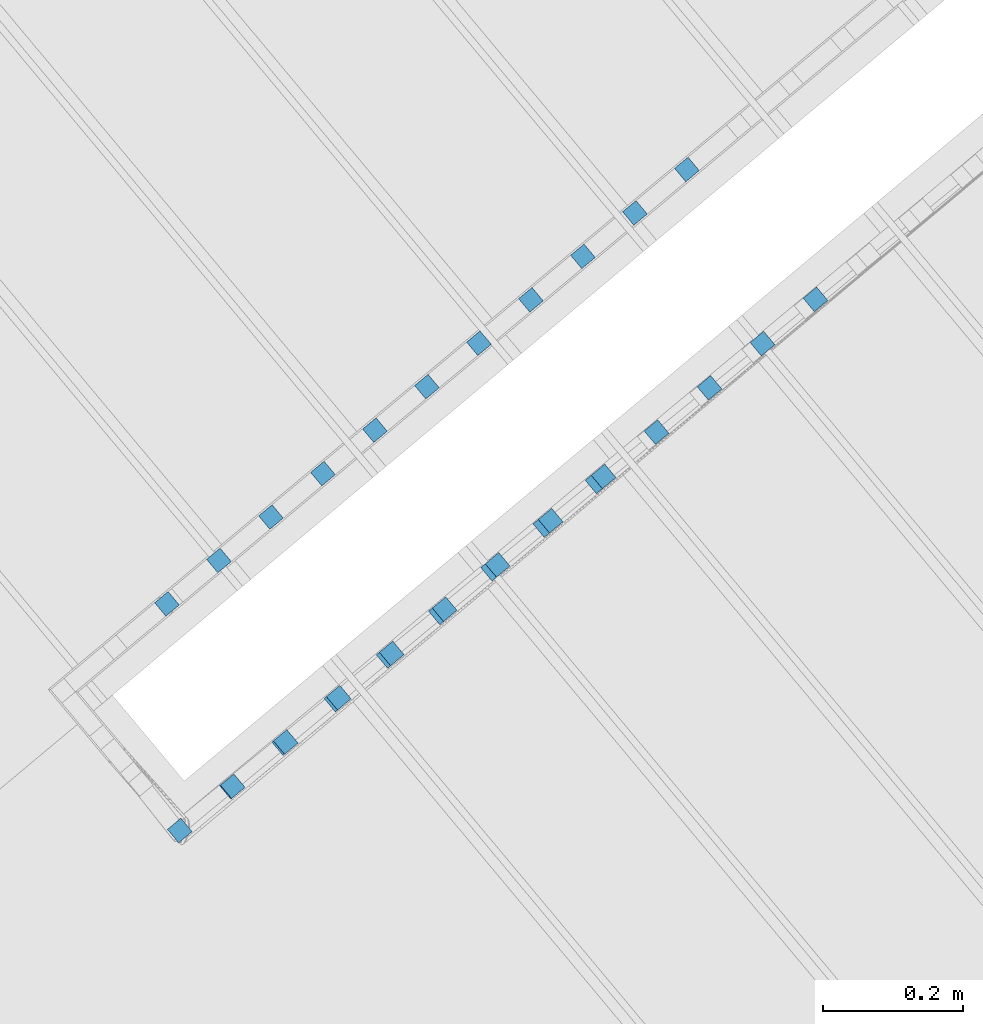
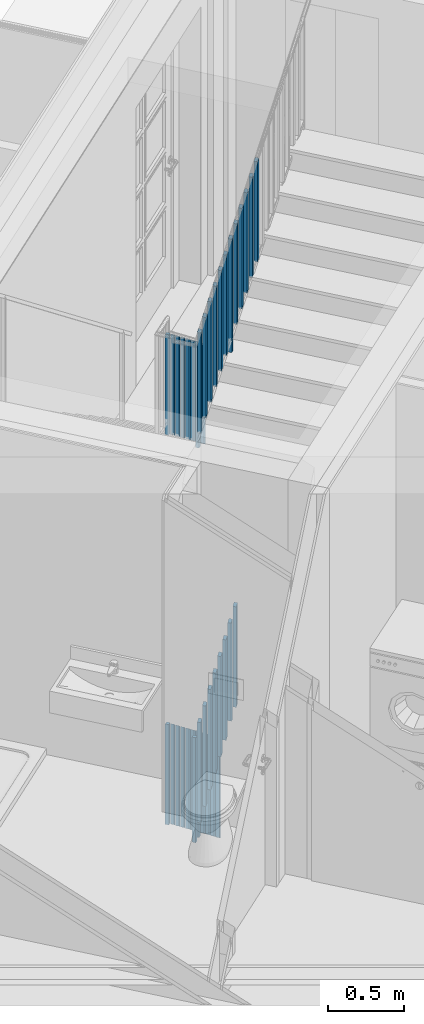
# One storey, part 60 of 75: 40 building element parts, 2 elements without a shape of their own.
"""IFC4 building model written with IfcOpenShell, lengths in metres."""

from ifc_helpers import new_model, entity, si_unit, converted_unit, derived_unit, direction, frame, origin_with_axes, place, context, subcontext, project, spatial, polygons, material, type_object, element, aggregate, save


model = new_model("IFC4")

# Units and contexts
model_context = context("Model", 3, precision=1e-05, world=origin_with_axes(), true_north=direction((0.0, 1.0)))
body_context = subcontext(model_context, "Body", "Model", "MODEL_VIEW")
ifc_project = project(units=[si_unit("LENGTHUNIT", "METRE"), si_unit("AREAUNIT", "SQUARE_METRE"), si_unit("VOLUMEUNIT", "CUBIC_METRE"), converted_unit("PLANEANGLEUNIT", "DEGREE", entity("IfcPlaneAngleMeasure", 0.0174532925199), si_unit("PLANEANGLEUNIT", "RADIAN"), dimensions=[0, 0, 0, 0, 0, 0, 0]), converted_unit("TIMEUNIT", "Year", entity("IfcTimeMeasure", 31556926.0), si_unit("TIMEUNIT", "SECOND"), dimensions=[0, 0, 1, 0, 0, 0, 0]), si_unit("MASSUNIT", "GRAM", prefix="KILO"), si_unit("THERMODYNAMICTEMPERATUREUNIT", "DEGREE_CELSIUS"), si_unit("LUMINOUSINTENSITYUNIT", "LUMEN"), si_unit("ENERGYUNIT", "JOULE", prefix="MEGA"), derived_unit("THERMALCONDUCTANCEUNIT", [(si_unit("POWERUNIT", "WATT"), 1), (si_unit("LENGTHUNIT", "METRE"), -1), (si_unit("THERMODYNAMICTEMPERATUREUNIT", "KELVIN"), -1)]), derived_unit("SPECIFICHEATCAPACITYUNIT", [(si_unit("ENERGYUNIT", "JOULE"), 1), (si_unit("MASSUNIT", "GRAM", prefix="KILO"), -1), (si_unit("THERMODYNAMICTEMPERATUREUNIT", "KELVIN"), -1)]), derived_unit("MASSDENSITYUNIT", [(si_unit("MASSUNIT", "GRAM", prefix="KILO"), 1), (si_unit("VOLUMEUNIT", "CUBIC_METRE"), -1)])], contexts=[model_context])

# Site, building, storey, space
site_placement = place(None, frame((-0.00153261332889, -0.00661245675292, 0.0), z_axis=(0.0, 0.0, 1.0), x_axis=(1.0, 0.0, 0.0)))
site = spatial("IfcSite", under=ifc_project, at=site_placement, Name="Gelände", CompositionType="ELEMENT")
building_placement = place(site_placement, origin_with_axes())
building = spatial("IfcBuilding", under=site, at=building_placement, Name="Gebäude", CompositionType="ELEMENT")
storey_placement = place(building_placement, frame((0.0, 0.0, -0.22), z_axis=(0.0, 0.0, 1.0), x_axis=(1.0, 0.0, 0.0)))
storey = spatial("IfcBuildingStorey", under=building, at=storey_placement, Name="EG", CompositionType="ELEMENT", Elevation=-0.22)
space_placement = place(storey_placement, frame((-1.16508896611, 24.7530172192, 0.22), z_axis=(0.0, 0.0, 1.0), x_axis=(0.641170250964, -0.76739866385, 0.0)))
space = spatial("IfcSpace", under=storey, at=space_placement, CompositionType="ELEMENT", PredefinedType="NOTDEFINED")

# Railing, building element parts
railing_type = type_object("IfcRailingType", Name="Geländerart", PredefinedType="NOTDEFINED")
railing_1_placement = place(space_placement, frame((1.19553434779, -1.19750858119e-08, -0.17), z_axis=(0.0, 0.0, 1.0), x_axis=(0.641170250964, 0.76739866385, 0.0)))
railing_1 = element("IfcRailing", 1, at=railing_1_placement, inside=space, type_object=railing_type, Name="Geländer - 001", PredefinedType="NOTDEFINED")
ifc_material = material(Name="BEKLEIDUNG")
building_element_part_1_placement = place(railing_1_placement, origin_with_axes())
building_element_part_1 = element("IfcBuildingElementPart", 2, at=building_element_part_1_placement, material=ifc_material, Name="BEKLEIDUNG", PredefinedType="NOTDEFINED", context=body_context, shape_type="Tessellation", body=[
    polygons([(-1.16283376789, -0.890116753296, 1.21072991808), (-1.14680451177, -0.90930172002, 1.21072991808), (-1.14680451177, -0.90930172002, 2.01822991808), (-1.16283376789, -0.890116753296, 2.01822991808), (-1.14364880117, -0.874087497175, 1.19123790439), (-1.12761954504, -0.893272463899, 1.19123790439), (-1.12761954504, -0.893272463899, 1.99873790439), (-1.14364880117, -0.874087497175, 1.99873790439)], [[[1, 2, 3, 4]], [[1, 5, 6, 2]], [[2, 6, 7, 3]], [[4, 3, 7, 8]], [[5, 1, 4, 8]], [[6, 5, 8, 7]]], closed=True),
])
building_element_part_2_placement = place(railing_1_placement, origin_with_axes())
building_element_part_2 = element("IfcBuildingElementPart", 3, at=building_element_part_2_placement, material=ifc_material, Name="BEKLEIDUNG", PredefinedType="NOTDEFINED", context=body_context, shape_type="Tessellation", body=[
    polygons([(-1.23704497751, -0.952121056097, 1.23941176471), (-1.22101572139, -0.971306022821, 1.23941176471), (-1.22101572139, -0.971306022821, 2.09612884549), (-1.23704497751, -0.952121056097, 2.09612884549), (-1.21786001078, -0.936091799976, 1.23941176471), (-1.20183075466, -0.9552767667, 1.23941176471), (-1.20183075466, -0.9552767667, 2.07663683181), (-1.21786001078, -0.936091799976, 2.07663683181)], [[[1, 2, 3, 4]], [[1, 5, 6, 2]], [[2, 6, 7, 3]], [[4, 3, 7, 8]], [[5, 1, 4, 8]], [[6, 5, 8, 7]]], closed=True),
])
building_element_part_3_placement = place(railing_1_placement, origin_with_axes())
building_element_part_3 = element("IfcBuildingElementPart", 4, at=building_element_part_3_placement, material=ifc_material, Name="BEKLEIDUNG", PredefinedType="NOTDEFINED", context=body_context, shape_type="Tessellation", body=[
    polygons([(-1.31125618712, -1.0141253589, 1.36152777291), (-1.295226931, -1.03331032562, 1.36152777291), (-1.295226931, -1.03331032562, 2.16902777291), (-1.31125618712, -1.0141253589, 2.16902777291), (-1.2920712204, -0.998096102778, 1.34203575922), (-1.27604196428, -1.0172810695, 1.34203575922), (-1.27604196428, -1.0172810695, 2.14953575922), (-1.2920712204, -0.998096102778, 2.14953575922)], [[[1, 2, 3, 4]], [[1, 5, 6, 2]], [[2, 6, 7, 3]], [[4, 3, 7, 8]], [[5, 1, 4, 8]], [[6, 5, 8, 7]]], closed=True),
])
building_element_part_4_placement = place(railing_1_placement, origin_with_axes())
building_element_part_4 = element("IfcBuildingElementPart", 5, at=building_element_part_4_placement, material=ifc_material, Name="BEKLEIDUNG", PredefinedType="NOTDEFINED", context=body_context, shape_type="Tessellation", body=[
    polygons([(-1.38546739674, -1.0761296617, 1.43692670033), (-1.36943814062, -1.09531462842, 1.43692670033), (-1.36943814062, -1.09531462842, 2.24442670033), (-1.38546739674, -1.0761296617, 2.24442670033), (-1.36628243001, -1.06010040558, 1.41743468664), (-1.35025317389, -1.0792853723, 1.41743468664), (-1.35025317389, -1.0792853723, 2.22493468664), (-1.36628243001, -1.06010040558, 2.22493468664)], [[[1, 2, 3, 4]], [[1, 5, 6, 2]], [[2, 6, 7, 3]], [[4, 3, 7, 8]], [[5, 1, 4, 8]], [[6, 5, 8, 7]]], closed=True),
])
building_element_part_5_placement = place(railing_1_placement, origin_with_axes())
building_element_part_5 = element("IfcBuildingElementPart", 6, at=building_element_part_5_placement, material=ifc_material, Name="BEKLEIDUNG", PredefinedType="NOTDEFINED", context=body_context, shape_type="Tessellation", body=[
    polygons([(-1.45967860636, -1.1381339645, 1.51232562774), (-1.44364935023, -1.15731893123, 1.51232562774), (-1.44364935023, -1.15731893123, 2.31982562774), (-1.45967860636, -1.1381339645, 2.31982562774), (-1.44049363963, -1.12210470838, 1.49283361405), (-1.42446438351, -1.1412896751, 1.49283361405), (-1.42446438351, -1.1412896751, 2.30033361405), (-1.44049363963, -1.12210470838, 2.30033361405)], [[[1, 2, 3, 4]], [[1, 5, 6, 2]], [[2, 6, 7, 3]], [[4, 3, 7, 8]], [[5, 1, 4, 8]], [[6, 5, 8, 7]]], closed=True),
])
building_element_part_6_placement = place(railing_1_placement, origin_with_axes())
building_element_part_6 = element("IfcBuildingElementPart", 7, at=building_element_part_6_placement, material=ifc_material, Name="BEKLEIDUNG", PredefinedType="NOTDEFINED", context=body_context, shape_type="Tessellation", body=[
    polygons([(-1.53388981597, -1.2001382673, 1.58772455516), (-1.51786055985, -1.21932323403, 1.58772455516), (-1.51786055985, -1.21932323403, 2.39522455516), (-1.53388981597, -1.2001382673, 2.39522455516), (-1.51470484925, -1.18410901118, 1.56823254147), (-1.49867559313, -1.20329397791, 1.56823254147), (-1.49867559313, -1.20329397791, 2.37573254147), (-1.51470484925, -1.18410901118, 2.37573254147)], [[[1, 2, 3, 4]], [[1, 5, 6, 2]], [[2, 6, 7, 3]], [[4, 3, 7, 8]], [[5, 1, 4, 8]], [[6, 5, 8, 7]]], closed=True),
])
building_element_part_7_placement = place(railing_1_placement, origin_with_axes())
building_element_part_7 = element("IfcBuildingElementPart", 8, at=building_element_part_7_placement, material=ifc_material, Name="BEKLEIDUNG", PredefinedType="NOTDEFINED", context=body_context, shape_type="Tessellation", body=[
    polygons([(-1.60810102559, -1.2621425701, 1.66312348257), (-1.59207176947, -1.28132753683, 1.66312348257), (-1.59207176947, -1.28132753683, 2.47062348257), (-1.60810102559, -1.2621425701, 2.47062348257), (-1.58891605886, -1.24611331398, 1.64363146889), (-1.57288680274, -1.26529828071, 1.64363146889), (-1.57288680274, -1.26529828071, 2.45113146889), (-1.58891605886, -1.24611331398, 2.45113146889)], [[[1, 2, 3, 4]], [[1, 5, 6, 2]], [[2, 6, 7, 3]], [[4, 3, 7, 8]], [[5, 1, 4, 8]], [[6, 5, 8, 7]]], closed=True),
])
building_element_part_8_placement = place(railing_1_placement, origin_with_axes())
building_element_part_8 = element("IfcBuildingElementPart", 9, at=building_element_part_8_placement, material=ifc_material, Name="BEKLEIDUNG", PredefinedType="NOTDEFINED", context=body_context, shape_type="Tessellation", body=[
    polygons([(-1.6823122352, -1.32414687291, 1.72363814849), (-1.66628297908, -1.34333183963, 1.72363814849), (-1.66628297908, -1.34333183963, 2.53113814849), (-1.6823122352, -1.32414687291, 2.53113814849), (-1.66312726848, -1.30811761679, 1.72363814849), (-1.64709801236, -1.32730258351, 1.72363814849), (-1.64709801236, -1.32730258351, 2.53113814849), (-1.66312726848, -1.30811761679, 2.53113814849)], [[[1, 2, 3, 4]], [[1, 5, 6, 2]], [[2, 6, 7, 3]], [[4, 3, 7, 8]], [[5, 1, 4, 8]], [[6, 5, 8, 7]]], closed=True),
])
building_element_part_9_placement = place(railing_1_placement, origin_with_axes())
building_element_part_9 = element("IfcBuildingElementPart", 10, at=building_element_part_9_placement, material=ifc_material, Name="BEKLEIDUNG", PredefinedType="NOTDEFINED", context=body_context, shape_type="Tessellation", body=[
    polygons([(-1.55322027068, -1.58760797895, 1.87805222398), (-1.5692505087, -1.56842383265, 1.87805222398), (-1.5692505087, -1.56842383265, 2.68555222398), (-1.55322027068, -1.58760797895, 2.68555222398), (-1.57240441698, -1.60363821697, 1.86270754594), (-1.588434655, -1.58445407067, 1.86270754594), (-1.588434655, -1.58445407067, 2.67020754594), (-1.57240441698, -1.60363821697, 2.67020754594)], [[[1, 2, 3, 4]], [[1, 5, 6, 2]], [[2, 6, 7, 3]], [[4, 3, 7, 8]], [[5, 1, 4, 8]], [[6, 5, 8, 7]]], closed=True),
])
building_element_part_10_placement = place(railing_1_placement, origin_with_axes())
building_element_part_10 = element("IfcBuildingElementPart", 11, at=building_element_part_10_placement, material=ifc_material, Name="BEKLEIDUNG", PredefinedType="NOTDEFINED", context=body_context, shape_type="Tessellation", body=[
    polygons([(-1.4776060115, -1.52442484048, 1.93853322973), (-1.49363624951, -1.50524069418, 1.93853322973), (-1.49363624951, -1.50524069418, 2.74603322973), (-1.4776060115, -1.52442484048, 2.74603322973), (-1.4967901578, -1.54045507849, 1.92318855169), (-1.51282039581, -1.52127093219, 1.92318855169), (-1.51282039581, -1.52127093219, 2.73068855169), (-1.4967901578, -1.54045507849, 2.73068855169)], [[[1, 2, 3, 4]], [[1, 5, 6, 2]], [[2, 6, 7, 3]], [[4, 3, 7, 8]], [[5, 1, 4, 8]], [[6, 5, 8, 7]]], closed=True),
])
building_element_part_11_placement = place(railing_1_placement, origin_with_axes())
building_element_part_11 = element("IfcBuildingElementPart", 12, at=building_element_part_11_placement, material=ifc_material, Name="BEKLEIDUNG", PredefinedType="NOTDEFINED", context=body_context, shape_type="Tessellation", body=[
    polygons([(-1.40199175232, -1.461241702, 1.99901423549), (-1.41802199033, -1.4420575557, 1.99901423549), (-1.41802199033, -1.4420575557, 2.80651423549), (-1.40199175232, -1.461241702, 2.80651423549), (-1.42117589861, -1.47727194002, 1.98366955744), (-1.43720613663, -1.45808779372, 1.98366955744), (-1.43720613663, -1.45808779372, 2.79116955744), (-1.42117589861, -1.47727194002, 2.79116955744)], [[[1, 2, 3, 4]], [[1, 5, 6, 2]], [[2, 6, 7, 3]], [[4, 3, 7, 8]], [[5, 1, 4, 8]], [[6, 5, 8, 7]]], closed=True),
])
building_element_part_12_placement = place(railing_1_placement, origin_with_axes())
building_element_part_12 = element("IfcBuildingElementPart", 13, at=building_element_part_12_placement, material=ifc_material, Name="BEKLEIDUNG", PredefinedType="NOTDEFINED", context=body_context, shape_type="Tessellation", body=[
    polygons([(-1.32637749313, -1.39805856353, 2.05949524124), (-1.34240773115, -1.37887441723, 2.05949524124), (-1.34240773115, -1.37887441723, 2.86699524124), (-1.32637749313, -1.39805856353, 2.86699524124), (-1.34556163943, -1.41408880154, 2.04415056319), (-1.36159187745, -1.39490465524, 2.04415056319), (-1.36159187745, -1.39490465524, 2.85165056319), (-1.34556163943, -1.41408880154, 2.85165056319)], [[[1, 2, 3, 4]], [[1, 5, 6, 2]], [[2, 6, 7, 3]], [[4, 3, 7, 8]], [[5, 1, 4, 8]], [[6, 5, 8, 7]]], closed=True),
])
building_element_part_13_placement = place(railing_1_placement, origin_with_axes())
building_element_part_13 = element("IfcBuildingElementPart", 14, at=building_element_part_13_placement, material=ifc_material, Name="BEKLEIDUNG", PredefinedType="NOTDEFINED", context=body_context, shape_type="Tessellation", body=[
    polygons([(-1.25076323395, -1.33487542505, 2.11997624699), (-1.26679347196, -1.31569127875, 2.11997624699), (-1.26679347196, -1.31569127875, 2.92747624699), (-1.25076323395, -1.33487542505, 2.92747624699), (-1.26994738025, -1.35090566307, 2.10463156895), (-1.28597761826, -1.33172151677, 2.10463156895), (-1.28597761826, -1.33172151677, 2.91213156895), (-1.26994738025, -1.35090566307, 2.91213156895)], [[[1, 2, 3, 4]], [[1, 5, 6, 2]], [[2, 6, 7, 3]], [[4, 3, 7, 8]], [[5, 1, 4, 8]], [[6, 5, 8, 7]]], closed=True),
])
building_element_part_14_placement = place(railing_1_placement, origin_with_axes())
building_element_part_14 = element("IfcBuildingElementPart", 15, at=building_element_part_14_placement, material=ifc_material, Name="BEKLEIDUNG", PredefinedType="NOTDEFINED", context=body_context, shape_type="Tessellation", body=[
    polygons([(-1.17514897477, -1.27169228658, 2.18045725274), (-1.19117921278, -1.25250814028, 2.18045725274), (-1.19117921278, -1.25250814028, 2.98795725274), (-1.17514897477, -1.27169228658, 2.98795725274), (-1.19433312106, -1.28772252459, 2.1651125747), (-1.21036335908, -1.26853837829, 2.1651125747), (-1.21036335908, -1.26853837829, 2.9726125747), (-1.19433312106, -1.28772252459, 2.9726125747)], [[[1, 2, 3, 4]], [[1, 5, 6, 2]], [[2, 6, 7, 3]], [[4, 3, 7, 8]], [[5, 1, 4, 8]], [[6, 5, 8, 7]]], closed=True),
])
building_element_part_15_placement = place(railing_1_placement, origin_with_axes())
building_element_part_15 = element("IfcBuildingElementPart", 16, at=building_element_part_15_placement, material=ifc_material, Name="BEKLEIDUNG", PredefinedType="NOTDEFINED", context=body_context, shape_type="Tessellation", body=[
    polygons([(-1.09953471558, -1.2085091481, 2.12470588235), (-1.1155649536, -1.1893250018, 2.12470588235), (-1.1155649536, -1.1893250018, 3.05093825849), (-1.09953471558, -1.2085091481, 3.05093825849), (-1.11871886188, -1.22453938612, 2.12470588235), (-1.13474909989, -1.20535523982, 2.12470588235), (-1.13474909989, -1.20535523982, 3.03559358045), (-1.11871886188, -1.22453938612, 3.03559358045)], [[[1, 2, 3, 4]], [[1, 5, 6, 2]], [[2, 6, 7, 3]], [[4, 3, 7, 8]], [[5, 1, 4, 8]], [[6, 5, 8, 7]]], closed=True),
])
building_element_part_16_placement = place(railing_1_placement, origin_with_axes())
building_element_part_16 = element("IfcBuildingElementPart", 17, at=building_element_part_16_placement, material=ifc_material, Name="BEKLEIDUNG", PredefinedType="NOTDEFINED", context=body_context, shape_type="Tessellation", body=[
    polygons([(-1.0239204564, -1.14532600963, 2.30141926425), (-1.03995069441, -1.12614186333, 2.30141926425), (-1.03995069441, -1.12614186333, 3.10891926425), (-1.0239204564, -1.14532600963, 3.10891926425), (-1.0431046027, -1.16135624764, 2.2860745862), (-1.05913484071, -1.14217210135, 2.2860745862), (-1.05913484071, -1.14217210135, 3.0935745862), (-1.0431046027, -1.16135624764, 3.0935745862)], [[[1, 2, 3, 4]], [[1, 5, 6, 2]], [[2, 6, 7, 3]], [[4, 3, 7, 8]], [[5, 1, 4, 8]], [[6, 5, 8, 7]]], closed=True),
])
building_element_part_17_placement = place(railing_1_placement, origin_with_axes())
building_element_part_17 = element("IfcBuildingElementPart", 18, at=building_element_part_17_placement, material=ifc_material, Name="BEKLEIDUNG", PredefinedType="NOTDEFINED", context=body_context, shape_type="Tessellation", body=[
    polygons([(-0.948306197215, -1.08214287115, 2.36190027), (-0.96433643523, -1.06295872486, 2.36190027), (-0.96433643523, -1.06295872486, 3.16940027), (-0.948306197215, -1.08214287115, 3.16940027), (-0.967490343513, -1.09817310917, 2.34655559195), (-0.983520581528, -1.07898896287, 2.34655559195), (-0.983520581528, -1.07898896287, 3.15405559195), (-0.967490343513, -1.09817310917, 3.15405559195)], [[[1, 2, 3, 4]], [[1, 5, 6, 2]], [[2, 6, 7, 3]], [[4, 3, 7, 8]], [[5, 1, 4, 8]], [[6, 5, 8, 7]]], closed=True),
])
building_element_part_18_placement = place(railing_1_placement, origin_with_axes())
building_element_part_18 = element("IfcBuildingElementPart", 19, at=building_element_part_18_placement, material=ifc_material, Name="BEKLEIDUNG", PredefinedType="NOTDEFINED", context=body_context, shape_type="Tessellation", body=[
    polygons([(-0.872691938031, -1.01895973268, 2.42238127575), (-0.888722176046, -0.999775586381, 2.42238127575), (-0.888722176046, -0.999775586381, 3.22988127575), (-0.872691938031, -1.01895973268, 3.22988127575), (-0.891876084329, -1.03498997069, 2.40703659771), (-0.907906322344, -1.0158058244, 2.40703659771), (-0.907906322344, -1.0158058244, 3.21453659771), (-0.891876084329, -1.03498997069, 3.21453659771)], [[[1, 2, 3, 4]], [[1, 5, 6, 2]], [[2, 6, 7, 3]], [[4, 3, 7, 8]], [[5, 1, 4, 8]], [[6, 5, 8, 7]]], closed=True),
])
building_element_part_19_placement = place(railing_1_placement, origin_with_axes())
building_element_part_19 = element("IfcBuildingElementPart", 20, at=building_element_part_19_placement, material=ifc_material, Name="BEKLEIDUNG", PredefinedType="NOTDEFINED", context=body_context, shape_type="Tessellation", body=[
    polygons([(-0.797077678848, -0.955776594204, 2.4828622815), (-0.813107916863, -0.936592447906, 2.4828622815), (-0.813107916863, -0.936592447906, 3.2903622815), (-0.797077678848, -0.955776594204, 3.2903622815), (-0.816261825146, -0.971806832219, 2.46751760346), (-0.832292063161, -0.952622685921, 2.46751760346), (-0.832292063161, -0.952622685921, 3.27501760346), (-0.816261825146, -0.971806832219, 3.27501760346)], [[[1, 2, 3, 4]], [[1, 5, 6, 2]], [[2, 6, 7, 3]], [[4, 3, 7, 8]], [[5, 1, 4, 8]], [[6, 5, 8, 7]]], closed=True),
])
building_element_part_20_placement = place(railing_1_placement, origin_with_axes())
building_element_part_20 = element("IfcBuildingElementPart", 21, at=building_element_part_20_placement, material=ifc_material, Name="BEKLEIDUNG", PredefinedType="NOTDEFINED", context=body_context, shape_type="Tessellation", body=[
    polygons([(-0.721463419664, -0.892593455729, 2.54334328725), (-0.737493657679, -0.873409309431, 2.54334328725), (-0.737493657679, -0.873409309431, 3.35084328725), (-0.721463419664, -0.892593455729, 3.35084328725), (-0.740647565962, -0.908623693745, 2.52799860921), (-0.756677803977, -0.889439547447, 2.52799860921), (-0.756677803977, -0.889439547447, 3.33549860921), (-0.740647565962, -0.908623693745, 3.33549860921)], [[[1, 2, 3, 4]], [[1, 5, 6, 2]], [[2, 6, 7, 3]], [[4, 3, 7, 8]], [[5, 1, 4, 8]], [[6, 5, 8, 7]]], closed=True),
])
aggregate(railing_1, [building_element_part_1, building_element_part_2, building_element_part_3, building_element_part_4, building_element_part_5, building_element_part_6, building_element_part_7, building_element_part_8, building_element_part_9, building_element_part_10, building_element_part_11, building_element_part_12, building_element_part_13, building_element_part_14, building_element_part_15, building_element_part_16, building_element_part_17, building_element_part_18, building_element_part_19, building_element_part_20])

railing_2_placement = place(space_placement, frame((1.1955343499, 0.255237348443, -3.3), z_axis=(0.0, 0.0, 1.0), x_axis=(0.641170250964, 0.76739866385, 0.0)))
railing_2 = element("IfcRailing", 22, at=railing_2_placement, inside=space, type_object=railing_type, Name="Geländer - 001", PredefinedType="NOTDEFINED")
building_element_part_21_placement = place(railing_2_placement, origin_with_axes())
building_element_part_21 = element("IfcBuildingElementPart", 23, at=building_element_part_21_placement, material=ifc_material, Name="BEKLEIDUNG", PredefinedType="NOTDEFINED", context=body_context, shape_type="Tessellation", body=[
    polygons([(-1.84388748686, -1.83047195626, 1.76666666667), (-1.82470334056, -1.81444171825, 1.76666666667), (-1.82470334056, -1.81444171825, 2.61115718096), (-1.84388748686, -1.83047195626, 2.61115718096), (-1.85991772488, -1.81128780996, 1.76666666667), (-1.84073357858, -1.79525757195, 1.76666666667), (-1.84073357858, -1.79525757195, 2.61115718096), (-1.85991772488, -1.81128780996, 2.61115718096)], [[[1, 2, 3, 4]], [[1, 5, 6, 2]], [[2, 6, 7, 3]], [[4, 3, 7, 8]], [[5, 1, 4, 8]], [[6, 5, 8, 7]]], closed=True),
])
building_element_part_22_placement = place(railing_2_placement, origin_with_axes())
building_element_part_22 = element("IfcBuildingElementPart", 24, at=building_element_part_22_placement, material=ifc_material, Name="BEKLEIDUNG", PredefinedType="NOTDEFINED", context=body_context, shape_type="Tessellation", body=[
    polygons([(-1.13606894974, -0.867754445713, 0.982507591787), (-1.12003969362, -0.886939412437, 0.982507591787), (-1.12003969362, -0.886939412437, 1.79000759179), (-1.13606894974, -0.867754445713, 1.79000759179), (-1.11688398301, -0.851725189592, 0.963058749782), (-1.10085472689, -0.870910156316, 0.963058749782), (-1.10085472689, -0.870910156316, 1.77055874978), (-1.11688398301, -0.851725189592, 1.77055874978)], [[[1, 2, 3, 4]], [[1, 5, 6, 2]], [[2, 6, 7, 3]], [[4, 3, 7, 8]], [[5, 1, 4, 8]], [[6, 5, 8, 7]]], closed=True),
])
building_element_part_23_placement = place(railing_2_placement, origin_with_axes())
building_element_part_23 = element("IfcBuildingElementPart", 25, at=building_element_part_23_placement, material=ifc_material, Name="BEKLEIDUNG", PredefinedType="NOTDEFINED", context=body_context, shape_type="Tessellation", body=[
    polygons([(-1.21028015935, -0.929758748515, 1.05773952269), (-1.19425090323, -0.948943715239, 1.05773952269), (-1.19425090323, -0.948943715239, 1.86523952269), (-1.21028015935, -0.929758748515, 1.86523952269), (-1.19109519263, -0.913729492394, 1.03829068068), (-1.17506593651, -0.932914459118, 1.03829068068), (-1.17506593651, -0.932914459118, 1.84579068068), (-1.19109519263, -0.913729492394, 1.84579068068)], [[[1, 2, 3, 4]], [[1, 5, 6, 2]], [[2, 6, 7, 3]], [[4, 3, 7, 8]], [[5, 1, 4, 8]], [[6, 5, 8, 7]]], closed=True),
])
building_element_part_24_placement = place(railing_2_placement, origin_with_axes())
building_element_part_24 = element("IfcBuildingElementPart", 26, at=building_element_part_24_placement, material=ifc_material, Name="BEKLEIDUNG", PredefinedType="NOTDEFINED", context=body_context, shape_type="Tessellation", body=[
    polygons([(-1.28449136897, -0.991763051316, 1.13297145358), (-1.26846211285, -1.01094801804, 1.13297145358), (-1.26846211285, -1.01094801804, 1.94047145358), (-1.28449136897, -0.991763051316, 1.94047145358), (-1.26530640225, -0.975733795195, 1.11352261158), (-1.24927714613, -0.994918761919, 1.11352261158), (-1.24927714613, -0.994918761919, 1.92102261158), (-1.26530640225, -0.975733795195, 1.92102261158)], [[[1, 2, 3, 4]], [[1, 5, 6, 2]], [[2, 6, 7, 3]], [[4, 3, 7, 8]], [[5, 1, 4, 8]], [[6, 5, 8, 7]]], closed=True),
])
building_element_part_25_placement = place(railing_2_placement, origin_with_axes())
building_element_part_25 = element("IfcBuildingElementPart", 27, at=building_element_part_25_placement, material=ifc_material, Name="BEKLEIDUNG", PredefinedType="NOTDEFINED", context=body_context, shape_type="Tessellation", body=[
    polygons([(-1.35870257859, -1.05376735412, 1.20820338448), (-1.34267332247, -1.07295232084, 1.20820338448), (-1.34267332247, -1.07295232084, 2.01570338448), (-1.35870257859, -1.05376735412, 2.01570338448), (-1.33951761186, -1.037738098, 1.18875454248), (-1.32348835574, -1.05692306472, 1.18875454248), (-1.32348835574, -1.05692306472, 1.99625454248), (-1.33951761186, -1.037738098, 1.99625454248)], [[[1, 2, 3, 4]], [[1, 5, 6, 2]], [[2, 6, 7, 3]], [[4, 3, 7, 8]], [[5, 1, 4, 8]], [[6, 5, 8, 7]]], closed=True),
])
building_element_part_26_placement = place(railing_2_placement, origin_with_axes())
building_element_part_26 = element("IfcBuildingElementPart", 28, at=building_element_part_26_placement, material=ifc_material, Name="BEKLEIDUNG", PredefinedType="NOTDEFINED", context=body_context, shape_type="Tessellation", body=[
    polygons([(-1.4329137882, -1.11577165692, 1.23666666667), (-1.41688453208, -1.13495662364, 1.23666666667), (-1.41688453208, -1.13495662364, 2.09343531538), (-1.4329137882, -1.11577165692, 2.09343531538), (-1.41372882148, -1.0997424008, 1.23666666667), (-1.39769956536, -1.11892736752, 1.23666666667), (-1.39769956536, -1.11892736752, 2.07398647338), (-1.41372882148, -1.0997424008, 2.07398647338)], [[[1, 2, 3, 4]], [[1, 5, 6, 2]], [[2, 6, 7, 3]], [[4, 3, 7, 8]], [[5, 1, 4, 8]], [[6, 5, 8, 7]]], closed=True),
])
building_element_part_27_placement = place(railing_2_placement, origin_with_axes())
building_element_part_27 = element("IfcBuildingElementPart", 29, at=building_element_part_27_placement, material=ifc_material, Name="BEKLEIDUNG", PredefinedType="NOTDEFINED", context=body_context, shape_type="Tessellation", body=[
    polygons([(-1.50712499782, -1.17777595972, 1.35866724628), (-1.4910957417, -1.19696092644, 1.35866724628), (-1.4910957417, -1.19696092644, 2.16616724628), (-1.50712499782, -1.17777595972, 2.16616724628), (-1.4879400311, -1.1617467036, 1.33921840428), (-1.47191077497, -1.18093167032, 1.33921840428), (-1.47191077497, -1.18093167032, 2.14671840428), (-1.4879400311, -1.1617467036, 2.14671840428)], [[[1, 2, 3, 4]], [[1, 5, 6, 2]], [[2, 6, 7, 3]], [[4, 3, 7, 8]], [[5, 1, 4, 8]], [[6, 5, 8, 7]]], closed=True),
])
building_element_part_28_placement = place(railing_2_placement, origin_with_axes())
building_element_part_28 = element("IfcBuildingElementPart", 30, at=building_element_part_28_placement, material=ifc_material, Name="BEKLEIDUNG", PredefinedType="NOTDEFINED", context=body_context, shape_type="Tessellation", body=[
    polygons([(-1.58133620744, -1.23978026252, 1.43389917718), (-1.56530695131, -1.25896522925, 1.43389917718), (-1.56530695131, -1.25896522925, 2.24139917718), (-1.58133620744, -1.23978026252, 2.24139917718), (-1.56215124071, -1.2237510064, 1.41445033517), (-1.54612198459, -1.24293597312, 1.41445033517), (-1.54612198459, -1.24293597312, 2.22195033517), (-1.56215124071, -1.2237510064, 2.22195033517)], [[[1, 2, 3, 4]], [[1, 5, 6, 2]], [[2, 6, 7, 3]], [[4, 3, 7, 8]], [[5, 1, 4, 8]], [[6, 5, 8, 7]]], closed=True),
])
building_element_part_29_placement = place(railing_2_placement, origin_with_axes())
building_element_part_29 = element("IfcBuildingElementPart", 31, at=building_element_part_29_placement, material=ifc_material, Name="BEKLEIDUNG", PredefinedType="NOTDEFINED", context=body_context, shape_type="Tessellation", body=[
    polygons([(-1.65554741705, -1.30178456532, 1.50913110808), (-1.63951816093, -1.32096953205, 1.50913110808), (-1.63951816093, -1.32096953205, 2.31663110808), (-1.65554741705, -1.30178456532, 2.31663110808), (-1.63636245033, -1.2857553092, 1.48968226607), (-1.62033319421, -1.30494027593, 1.48968226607), (-1.62033319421, -1.30494027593, 2.29718226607), (-1.63636245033, -1.2857553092, 2.29718226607)], [[[1, 2, 3, 4]], [[1, 5, 6, 2]], [[2, 6, 7, 3]], [[4, 3, 7, 8]], [[5, 1, 4, 8]], [[6, 5, 8, 7]]], closed=True),
])
building_element_part_30_placement = place(railing_2_placement, origin_with_axes())
building_element_part_30 = element("IfcBuildingElementPart", 32, at=building_element_part_30_placement, material=ifc_material, Name="BEKLEIDUNG", PredefinedType="NOTDEFINED", context=body_context, shape_type="Tessellation", body=[
    polygons([(-1.72975862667, -1.36378886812, 1.58436303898), (-1.71372937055, -1.38297383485, 1.58436303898), (-1.71372937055, -1.38297383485, 2.39186303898), (-1.72975862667, -1.36378886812, 2.39186303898), (-1.71057365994, -1.347759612, 1.56491419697), (-1.69454440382, -1.36694457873, 1.56491419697), (-1.69454440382, -1.36694457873, 2.37241419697), (-1.71057365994, -1.347759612, 2.37241419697)], [[[1, 2, 3, 4]], [[1, 5, 6, 2]], [[2, 6, 7, 3]], [[4, 3, 7, 8]], [[5, 1, 4, 8]], [[6, 5, 8, 7]]], closed=True),
])
building_element_part_31_placement = place(railing_2_placement, origin_with_axes())
building_element_part_31 = element("IfcBuildingElementPart", 33, at=building_element_part_31_placement, material=ifc_material, Name="BEKLEIDUNG", PredefinedType="NOTDEFINED", context=body_context, shape_type="Tessellation", body=[
    polygons([(-1.80396983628, -1.42579317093, 1.65959496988), (-1.78794058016, -1.44497813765, 1.65959496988), (-1.78794058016, -1.44497813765, 2.46709496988), (-1.80396983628, -1.42579317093, 2.46709496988), (-1.78478486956, -1.40976391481, 1.64014612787), (-1.76875561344, -1.42894888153, 1.64014612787), (-1.76875561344, -1.42894888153, 2.44764612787), (-1.78478486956, -1.40976391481, 2.44764612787)], [[[1, 2, 3, 4]], [[1, 5, 6, 2]], [[2, 6, 7, 3]], [[4, 3, 7, 8]], [[5, 1, 4, 8]], [[6, 5, 8, 7]]], closed=True),
])
building_element_part_32_placement = place(railing_2_placement, origin_with_axes())
building_element_part_32 = element("IfcBuildingElementPart", 34, at=building_element_part_32_placement, material=ifc_material, Name="BEKLEIDUNG", PredefinedType="NOTDEFINED", context=body_context, shape_type="Tessellation", body=[
    polygons([(-1.8781810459, -1.48779747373, 1.71997560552), (-1.86215178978, -1.50698244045, 1.71997560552), (-1.86215178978, -1.50698244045, 2.52747560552), (-1.8781810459, -1.48779747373, 2.52747560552), (-1.85899607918, -1.47176821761, 1.71997560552), (-1.84296682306, -1.49095318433, 1.71997560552), (-1.84296682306, -1.49095318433, 2.52747560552), (-1.85899607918, -1.47176821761, 2.52747560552)], [[[1, 2, 3, 4]], [[1, 5, 6, 2]], [[2, 6, 7, 3]], [[4, 3, 7, 8]], [[5, 1, 4, 8]], [[6, 5, 8, 7]]], closed=True),
])
building_element_part_33_placement = place(railing_2_placement, origin_with_axes())
building_element_part_33 = element("IfcBuildingElementPart", 35, at=building_element_part_33_placement, material=ifc_material, Name="BEKLEIDUNG", PredefinedType="NOTDEFINED", context=body_context, shape_type="Tessellation", body=[
    polygons([(-1.75015635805, -1.75215039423, 1.87902706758), (-1.76618659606, -1.73296624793, 1.87902706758), (-1.76618659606, -1.73296624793, 2.68652706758), (-1.75015635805, -1.75215039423, 2.68652706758), (-1.76934050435, -1.76818063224, 1.86127232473), (-1.78537074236, -1.74899648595, 1.86127232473), (-1.78537074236, -1.74899648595, 2.66877232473), (-1.76934050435, -1.76818063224, 2.66877232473)], [[[1, 2, 3, 4]], [[1, 5, 6, 2]], [[2, 6, 7, 3]], [[4, 3, 7, 8]], [[5, 1, 4, 8]], [[6, 5, 8, 7]]], closed=True),
])
building_element_part_34_placement = place(railing_2_placement, origin_with_axes())
building_element_part_34 = element("IfcBuildingElementPart", 36, at=building_element_part_34_placement, material=ifc_material, Name="BEKLEIDUNG", PredefinedType="NOTDEFINED", context=body_context, shape_type="Tessellation", body=[
    polygons([(-1.67560937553, -1.68985907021, 1.94801958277), (-1.69163961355, -1.67067492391, 1.94801958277), (-1.69163961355, -1.67067492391, 2.75551958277), (-1.67560937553, -1.68985907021, 2.75551958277), (-1.69479352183, -1.70588930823, 1.93026483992), (-1.71082375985, -1.68670516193, 1.93026483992), (-1.71082375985, -1.68670516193, 2.73776483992), (-1.69479352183, -1.70588930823, 2.73776483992)], [[[1, 2, 3, 4]], [[1, 5, 6, 2]], [[2, 6, 7, 3]], [[4, 3, 7, 8]], [[5, 1, 4, 8]], [[6, 5, 8, 7]]], closed=True),
])
building_element_part_35_placement = place(railing_2_placement, origin_with_axes())
building_element_part_35 = element("IfcBuildingElementPart", 37, at=building_element_part_35_placement, material=ifc_material, Name="BEKLEIDUNG", PredefinedType="NOTDEFINED", context=body_context, shape_type="Tessellation", body=[
    polygons([(-1.60106239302, -1.62756774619, 2.01701209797), (-1.61709263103, -1.6083835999, 2.01701209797), (-1.61709263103, -1.6083835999, 2.82451209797), (-1.60106239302, -1.62756774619, 2.82451209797), (-1.62024653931, -1.64359798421, 1.99925735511), (-1.63627677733, -1.62441383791, 1.99925735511), (-1.63627677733, -1.62441383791, 2.80675735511), (-1.62024653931, -1.64359798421, 2.80675735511)], [[[1, 2, 3, 4]], [[1, 5, 6, 2]], [[2, 6, 7, 3]], [[4, 3, 7, 8]], [[5, 1, 4, 8]], [[6, 5, 8, 7]]], closed=True),
])
building_element_part_36_placement = place(railing_2_placement, origin_with_axes())
building_element_part_36 = element("IfcBuildingElementPart", 38, at=building_element_part_36_placement, material=ifc_material, Name="BEKLEIDUNG", PredefinedType="NOTDEFINED", context=body_context, shape_type="Tessellation", body=[
    polygons([(-1.5265154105, -1.56527642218, 2.08600461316), (-1.54254564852, -1.54609227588, 2.08600461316), (-1.54254564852, -1.54609227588, 2.89350461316), (-1.5265154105, -1.56527642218, 2.89350461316), (-1.5456995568, -1.58130666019, 2.06824987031), (-1.56172979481, -1.56212251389, 2.06824987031), (-1.56172979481, -1.56212251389, 2.87574987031), (-1.5456995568, -1.58130666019, 2.87574987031)], [[[1, 2, 3, 4]], [[1, 5, 6, 2]], [[2, 6, 7, 3]], [[4, 3, 7, 8]], [[5, 1, 4, 8]], [[6, 5, 8, 7]]], closed=True),
])
building_element_part_37_placement = place(railing_2_placement, origin_with_axes())
building_element_part_37 = element("IfcBuildingElementPart", 39, at=building_element_part_37_placement, material=ifc_material, Name="BEKLEIDUNG", PredefinedType="NOTDEFINED", context=body_context, shape_type="Tessellation", body=[
    polygons([(-1.45196842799, -1.50298509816, 2.15499712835), (-1.467998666, -1.48380095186, 2.15499712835), (-1.467998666, -1.48380095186, 2.96249712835), (-1.45196842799, -1.50298509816, 2.96249712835), (-1.47115257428, -1.51901533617, 2.1372423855), (-1.4871828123, -1.49983118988, 2.1372423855), (-1.4871828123, -1.49983118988, 2.9447423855), (-1.47115257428, -1.51901533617, 2.9447423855)], [[[1, 2, 3, 4]], [[1, 5, 6, 2]], [[2, 6, 7, 3]], [[4, 3, 7, 8]], [[5, 1, 4, 8]], [[6, 5, 8, 7]]], closed=True),
])
building_element_part_38_placement = place(railing_2_placement, origin_with_axes())
building_element_part_38 = element("IfcBuildingElementPart", 40, at=building_element_part_38_placement, material=ifc_material, Name="BEKLEIDUNG", PredefinedType="NOTDEFINED", context=body_context, shape_type="Tessellation", body=[
    polygons([(-1.37742144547, -1.44069377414, 2.22398964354), (-1.39345168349, -1.42150962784, 2.22398964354), (-1.39345168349, -1.42150962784, 3.03148964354), (-1.37742144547, -1.44069377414, 3.03148964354), (-1.39660559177, -1.45672401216, 2.20623490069), (-1.41263582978, -1.43753986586, 2.20623490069), (-1.41263582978, -1.43753986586, 3.01373490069), (-1.39660559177, -1.45672401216, 3.01373490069)], [[[1, 2, 3, 4]], [[1, 5, 6, 2]], [[2, 6, 7, 3]], [[4, 3, 7, 8]], [[5, 1, 4, 8]], [[6, 5, 8, 7]]], closed=True),
])
building_element_part_39_placement = place(railing_2_placement, origin_with_axes())
building_element_part_39 = element("IfcBuildingElementPart", 41, at=building_element_part_39_placement, material=ifc_material, Name="BEKLEIDUNG", PredefinedType="NOTDEFINED", context=body_context, shape_type="Tessellation", body=[
    polygons([(-1.30287446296, -1.37840245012, 2.29666666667), (-1.31890470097, -1.35921830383, 2.29666666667), (-1.31890470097, -1.35921830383, 3.10298215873), (-1.30287446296, -1.37840245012, 3.10298215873), (-1.32205860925, -1.39443268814, 2.29666666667), (-1.33808884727, -1.37524854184, 2.29666666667), (-1.33808884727, -1.37524854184, 3.08522741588), (-1.32205860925, -1.39443268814, 3.08522741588)], [[[1, 2, 3, 4]], [[1, 5, 6, 2]], [[2, 6, 7, 3]], [[4, 3, 7, 8]], [[5, 1, 4, 8]], [[6, 5, 8, 7]]], closed=True),
])
building_element_part_40_placement = place(railing_2_placement, origin_with_axes())
building_element_part_40 = element("IfcBuildingElementPart", 42, at=building_element_part_40_placement, material=ifc_material, Name="BEKLEIDUNG", PredefinedType="NOTDEFINED", context=body_context, shape_type="Tessellation", body=[
    polygons([(-1.22832748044, -1.31611112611, 2.36197467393), (-1.24435771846, -1.29692697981, 2.36197467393), (-1.24435771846, -1.29692697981, 3.16947467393), (-1.22832748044, -1.31611112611, 3.16947467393), (-1.24751162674, -1.33214136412, 2.34421993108), (-1.26354186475, -1.31295721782, 2.34421993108), (-1.26354186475, -1.31295721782, 3.15171993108), (-1.24751162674, -1.33214136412, 3.15171993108)], [[[1, 2, 3, 4]], [[1, 5, 6, 2]], [[2, 6, 7, 3]], [[4, 3, 7, 8]], [[5, 1, 4, 8]], [[6, 5, 8, 7]]], closed=True),
])
aggregate(railing_2, [building_element_part_21, building_element_part_22, building_element_part_23, building_element_part_24, building_element_part_25, building_element_part_26, building_element_part_27, building_element_part_28, building_element_part_29, building_element_part_30, building_element_part_31, building_element_part_32, building_element_part_33, building_element_part_34, building_element_part_35, building_element_part_36, building_element_part_37, building_element_part_38, building_element_part_39, building_element_part_40])

save(model, "model.ifc")
